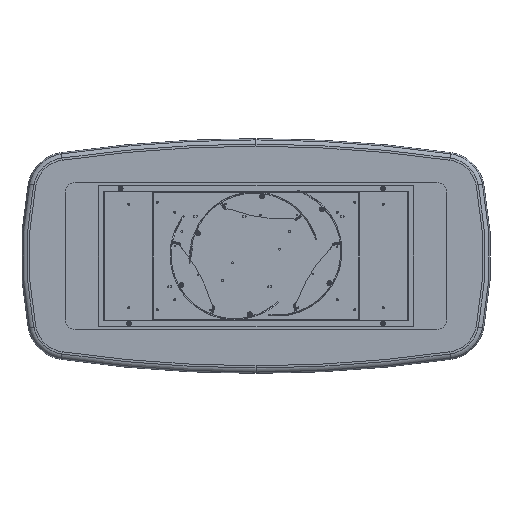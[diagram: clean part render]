
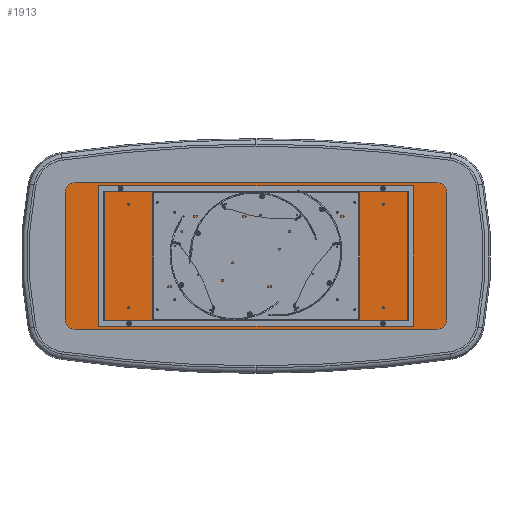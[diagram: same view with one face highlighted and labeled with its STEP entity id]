
A CAD part, front view. The second image highlights one B-rep face of the part: STEP entity #1913.
In plain terms, the highlighted planar face has unit normal (0, -1, 0).
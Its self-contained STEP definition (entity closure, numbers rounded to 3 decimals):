
#28 = CARTESIAN_POINT ( 'NONE',  ( 650., -35.5, 265. ) ) ;
#87 = EDGE_CURVE ( 'NONE', #9946, #12405, #21880, .T. ) ;
#225 = EDGE_CURVE ( 'NONE', #14367, #22392, #20133, .T. ) ;
#275 = DIRECTION ( 'NONE',  ( 0., 0., -1. ) ) ;
#523 = ORIENTED_EDGE ( 'NONE', *, *, #10127, .F. ) ;
#600 = VERTEX_POINT ( 'NONE', #15349 ) ;
#629 = DIRECTION ( 'NONE',  ( 1., 0., 0. ) ) ;
#763 = VECTOR ( 'NONE', #15783, 1000. ) ;
#1030 = CIRCLE ( 'NONE', #17528, 5. ) ;
#1095 = VERTEX_POINT ( 'NONE', #13784 ) ;
#1102 = EDGE_LOOP ( 'NONE', ( #22016, #2059, #18623, #10364, #4243, #18153, #19999, #20109 ) ) ;
#1166 = CARTESIAN_POINT ( 'NONE',  ( -975., -35.5, 325. ) ) ;
#1295 = CARTESIAN_POINT ( 'NONE',  ( 925., -35.5, 375. ) ) ;
#1589 = AXIS2_PLACEMENT_3D ( 'NONE', #11787, #2753, #17046 ) ;
#1676 = EDGE_CURVE ( 'NONE', #13317, #12545, #3008, .T. ) ;
#1913 = ADVANCED_FACE ( 'NONE', ( #2946, #15481, #22673, #15239, #22428 ), #20558, .T. ) ;
#2059 = ORIENTED_EDGE ( 'NONE', *, *, #87, .T. ) ;
#2306 = CARTESIAN_POINT ( 'NONE',  ( -925., -35.5, 375. ) ) ;
#2319 = DIRECTION ( 'NONE',  ( 0., 0., -1. ) ) ;
#2753 = DIRECTION ( 'NONE',  ( 0., -1., 0. ) ) ;
#2946 = FACE_BOUND ( 'NONE', #16361, .T. ) ;
#3008 = CIRCLE ( 'NONE', #22530, 5. ) ;
#3332 = VERTEX_POINT ( 'NONE', #17849 ) ;
#3620 = DIRECTION ( 'NONE',  ( 0., -1., 0. ) ) ;
#4031 = ORIENTED_EDGE ( 'NONE', *, *, #17605, .F. ) ;
#4074 = CARTESIAN_POINT ( 'NONE',  ( -650., -35.5, -265. ) ) ;
#4243 = ORIENTED_EDGE ( 'NONE', *, *, #4619, .T. ) ;
#4295 = VERTEX_POINT ( 'NONE', #20690 ) ;
#4408 = AXIS2_PLACEMENT_3D ( 'NONE', #7867, #4462, #13148 ) ;
#4462 = DIRECTION ( 'NONE',  ( 0., -1., 0. ) ) ;
#4619 = EDGE_CURVE ( 'NONE', #4295, #7203, #21202, .T. ) ;
#5064 = CARTESIAN_POINT ( 'NONE',  ( 650., -35.5, 270. ) ) ;
#5804 = AXIS2_PLACEMENT_3D ( 'NONE', #20661, #7967, #18778 ) ;
#5839 = VERTEX_POINT ( 'NONE', #14566 ) ;
#5848 = DIRECTION ( 'NONE',  ( 0., 0., -1. ) ) ;
#6022 = CARTESIAN_POINT ( 'NONE',  ( 650., -35.5, 265. ) ) ;
#6343 = CARTESIAN_POINT ( 'NONE',  ( 650., -35.5, -260. ) ) ;
#6389 = AXIS2_PLACEMENT_3D ( 'NONE', #13718, #11978, #22791 ) ;
#6616 = AXIS2_PLACEMENT_3D ( 'NONE', #20815, #17395, #19174 ) ;
#6865 = VERTEX_POINT ( 'NONE', #5064 ) ;
#6938 = DIRECTION ( 'NONE',  ( 0., 0., -1. ) ) ;
#6955 = CARTESIAN_POINT ( 'NONE',  ( 925., -35.5, 375. ) ) ;
#7202 = EDGE_LOOP ( 'NONE', ( #12161, #19824 ) ) ;
#7203 = VERTEX_POINT ( 'NONE', #1295 ) ;
#7391 = ORIENTED_EDGE ( 'NONE', *, *, #1676, .F. ) ;
#7765 = EDGE_CURVE ( 'NONE', #10632, #4295, #22737, .T. ) ;
#7867 = CARTESIAN_POINT ( 'NONE',  ( -650., -35.5, 265. ) ) ;
#7967 = DIRECTION ( 'NONE',  ( 0., -1., 0. ) ) ;
#8768 = VECTOR ( 'NONE', #17435, 1000. ) ;
#8874 = LINE ( 'NONE', #10405, #763 ) ;
#8998 = CIRCLE ( 'NONE', #11609, 50. ) ;
#9184 = DIRECTION ( 'NONE',  ( 0., 0., -1. ) ) ;
#9255 = ORIENTED_EDGE ( 'NONE', *, *, #13466, .F. ) ;
#9638 = CARTESIAN_POINT ( 'NONE',  ( -975., -35.5, -325. ) ) ;
#9820 = CIRCLE ( 'NONE', #1589, 50. ) ;
#9946 = VERTEX_POINT ( 'NONE', #11237 ) ;
#10060 = CARTESIAN_POINT ( 'NONE',  ( -650., -35.5, -265. ) ) ;
#10127 = EDGE_CURVE ( 'NONE', #600, #1095, #17148, .T. ) ;
#10169 = VERTEX_POINT ( 'NONE', #9638 ) ;
#10364 = ORIENTED_EDGE ( 'NONE', *, *, #7765, .T. ) ;
#10375 = DIRECTION ( 'NONE',  ( -1., 0., 0. ) ) ;
#10405 = CARTESIAN_POINT ( 'NONE',  ( -975., -35.5, -325. ) ) ;
#10614 = LINE ( 'NONE', #6955, #22902 ) ;
#10632 = VERTEX_POINT ( 'NONE', #22171 ) ;
#10730 = CARTESIAN_POINT ( 'NONE',  ( -650., -35.5, -270. ) ) ;
#11128 = VECTOR ( 'NONE', #629, 1000. ) ;
#11237 = CARTESIAN_POINT ( 'NONE',  ( -925., -35.5, -375. ) ) ;
#11364 = AXIS2_PLACEMENT_3D ( 'NONE', #10060, #20620, #17067 ) ;
#11609 = AXIS2_PLACEMENT_3D ( 'NONE', #13551, #22857, #18971 ) ;
#11787 = CARTESIAN_POINT ( 'NONE',  ( -925., -35.5, -325. ) ) ;
#11816 = CARTESIAN_POINT ( 'NONE',  ( 975., -35.5, -325. ) ) ;
#11978 = DIRECTION ( 'NONE',  ( 0., -1., 0. ) ) ;
#12161 = ORIENTED_EDGE ( 'NONE', *, *, #17419, .F. ) ;
#12215 = ORIENTED_EDGE ( 'NONE', *, *, #18992, .F. ) ;
#12405 = VERTEX_POINT ( 'NONE', #18285 ) ;
#12545 = VERTEX_POINT ( 'NONE', #14088 ) ;
#13015 = CIRCLE ( 'NONE', #17514, 5. ) ;
#13060 = VERTEX_POINT ( 'NONE', #10730 ) ;
#13148 = DIRECTION ( 'NONE',  ( 0., 0., -1. ) ) ;
#13256 = CARTESIAN_POINT ( 'NONE',  ( 650., -35.5, -265. ) ) ;
#13317 = VERTEX_POINT ( 'NONE', #6343 ) ;
#13466 = EDGE_CURVE ( 'NONE', #3332, #6865, #1030, .T. ) ;
#13551 = CARTESIAN_POINT ( 'NONE',  ( 925., -35.5, -325. ) ) ;
#13718 = CARTESIAN_POINT ( 'NONE',  ( -925., -35.5, -325. ) ) ;
#13784 = CARTESIAN_POINT ( 'NONE',  ( -650., -35.5, 260. ) ) ;
#13989 = EDGE_CURVE ( 'NONE', #5839, #13060, #20748, .T. ) ;
#14088 = CARTESIAN_POINT ( 'NONE',  ( 650., -35.5, -270. ) ) ;
#14367 = VERTEX_POINT ( 'NONE', #2306 ) ;
#14566 = CARTESIAN_POINT ( 'NONE',  ( -650., -35.5, -260. ) ) ;
#14863 = CARTESIAN_POINT ( 'NONE',  ( -650., -35.5, 265. ) ) ;
#15239 = FACE_BOUND ( 'NONE', #7202, .T. ) ;
#15349 = CARTESIAN_POINT ( 'NONE',  ( -650., -35.5, 270. ) ) ;
#15481 = FACE_BOUND ( 'NONE', #16250, .T. ) ;
#15640 = CIRCLE ( 'NONE', #16758, 5. ) ;
#15710 = CIRCLE ( 'NONE', #20234, 5. ) ;
#15783 = DIRECTION ( 'NONE',  ( 0., 0., -1. ) ) ;
#15976 = CARTESIAN_POINT ( 'NONE',  ( 650., -35.5, -265. ) ) ;
#16021 = EDGE_CURVE ( 'NONE', #6865, #3332, #15640, .T. ) ;
#16073 = DIRECTION ( 'NONE',  ( 0., -1., 0. ) ) ;
#16250 = EDGE_LOOP ( 'NONE', ( #9255, #22129 ) ) ;
#16361 = EDGE_LOOP ( 'NONE', ( #4031, #7391 ) ) ;
#16679 = DIRECTION ( 'NONE',  ( 0., -1., 0. ) ) ;
#16758 = AXIS2_PLACEMENT_3D ( 'NONE', #6022, #16679, #18584 ) ;
#16778 = AXIS2_PLACEMENT_3D ( 'NONE', #15976, #23059, #9184 ) ;
#17046 = DIRECTION ( 'NONE',  ( 0., 0., -1. ) ) ;
#17067 = DIRECTION ( 'NONE',  ( 0., 0., -1. ) ) ;
#17148 = CIRCLE ( 'NONE', #4408, 5. ) ;
#17395 = DIRECTION ( 'NONE',  ( 0., -1., 0. ) ) ;
#17419 = EDGE_CURVE ( 'NONE', #13060, #5839, #13015, .T. ) ;
#17435 = DIRECTION ( 'NONE',  ( 0., 0., 1. ) ) ;
#17514 = AXIS2_PLACEMENT_3D ( 'NONE', #4074, #3620, #2319 ) ;
#17528 = AXIS2_PLACEMENT_3D ( 'NONE', #28, #16073, #6938 ) ;
#17605 = EDGE_CURVE ( 'NONE', #12545, #13317, #20522, .T. ) ;
#17845 = EDGE_LOOP ( 'NONE', ( #12215, #523 ) ) ;
#17849 = CARTESIAN_POINT ( 'NONE',  ( 650., -35.5, 260. ) ) ;
#18153 = ORIENTED_EDGE ( 'NONE', *, *, #20090, .T. ) ;
#18285 = CARTESIAN_POINT ( 'NONE',  ( 925., -35.5, -375. ) ) ;
#18584 = DIRECTION ( 'NONE',  ( 0., 0., -1. ) ) ;
#18623 = ORIENTED_EDGE ( 'NONE', *, *, #19717, .T. ) ;
#18674 = DIRECTION ( 'NONE',  ( 0., -1., 0. ) ) ;
#18778 = DIRECTION ( 'NONE',  ( 0., 0., -1. ) ) ;
#18971 = DIRECTION ( 'NONE',  ( 0., 0., -1. ) ) ;
#18992 = EDGE_CURVE ( 'NONE', #1095, #600, #15710, .T. ) ;
#19174 = DIRECTION ( 'NONE',  ( 0., 0., -1. ) ) ;
#19717 = EDGE_CURVE ( 'NONE', #12405, #10632, #8998, .T. ) ;
#19824 = ORIENTED_EDGE ( 'NONE', *, *, #13989, .F. ) ;
#19894 = EDGE_CURVE ( 'NONE', #22392, #10169, #8874, .T. ) ;
#19999 = ORIENTED_EDGE ( 'NONE', *, *, #225, .T. ) ;
#20090 = EDGE_CURVE ( 'NONE', #7203, #14367, #10614, .T. ) ;
#20109 = ORIENTED_EDGE ( 'NONE', *, *, #19894, .T. ) ;
#20133 = CIRCLE ( 'NONE', #6616, 50. ) ;
#20188 = DIRECTION ( 'NONE',  ( 0., -1., 0. ) ) ;
#20234 = AXIS2_PLACEMENT_3D ( 'NONE', #14863, #20188, #5848 ) ;
#20246 = CARTESIAN_POINT ( 'NONE',  ( 925., -35.5, -375. ) ) ;
#20522 = CIRCLE ( 'NONE', #16778, 5. ) ;
#20558 = PLANE ( 'NONE',  #6389 ) ;
#20620 = DIRECTION ( 'NONE',  ( 0., -1., 0. ) ) ;
#20661 = CARTESIAN_POINT ( 'NONE',  ( 925., -35.5, 325. ) ) ;
#20690 = CARTESIAN_POINT ( 'NONE',  ( 975., -35.5, 325. ) ) ;
#20748 = CIRCLE ( 'NONE', #11364, 5. ) ;
#20815 = CARTESIAN_POINT ( 'NONE',  ( -925., -35.5, 325. ) ) ;
#21202 = CIRCLE ( 'NONE', #5804, 50. ) ;
#21329 = EDGE_CURVE ( 'NONE', #10169, #9946, #9820, .T. ) ;
#21880 = LINE ( 'NONE', #20246, #11128 ) ;
#22016 = ORIENTED_EDGE ( 'NONE', *, *, #21329, .T. ) ;
#22129 = ORIENTED_EDGE ( 'NONE', *, *, #16021, .F. ) ;
#22171 = CARTESIAN_POINT ( 'NONE',  ( 975., -35.5, -325. ) ) ;
#22392 = VERTEX_POINT ( 'NONE', #1166 ) ;
#22428 = FACE_OUTER_BOUND ( 'NONE', #1102, .T. ) ;
#22530 = AXIS2_PLACEMENT_3D ( 'NONE', #13256, #18674, #275 ) ;
#22673 = FACE_BOUND ( 'NONE', #17845, .T. ) ;
#22737 = LINE ( 'NONE', #11816, #8768 ) ;
#22791 = DIRECTION ( 'NONE',  ( 0., 0., -1. ) ) ;
#22857 = DIRECTION ( 'NONE',  ( 0., -1., 0. ) ) ;
#22902 = VECTOR ( 'NONE', #10375, 1000. ) ;
#23059 = DIRECTION ( 'NONE',  ( 0., -1., 0. ) ) ;
